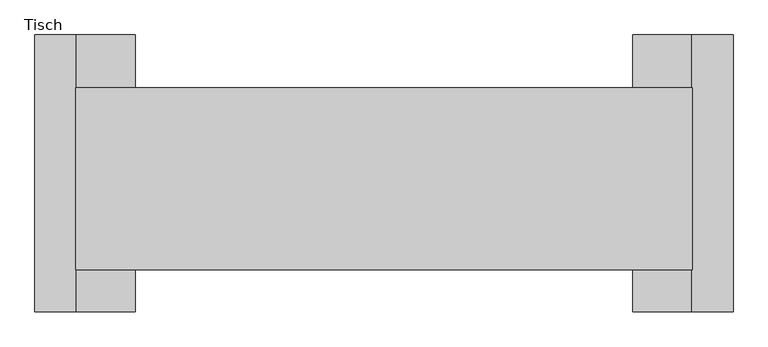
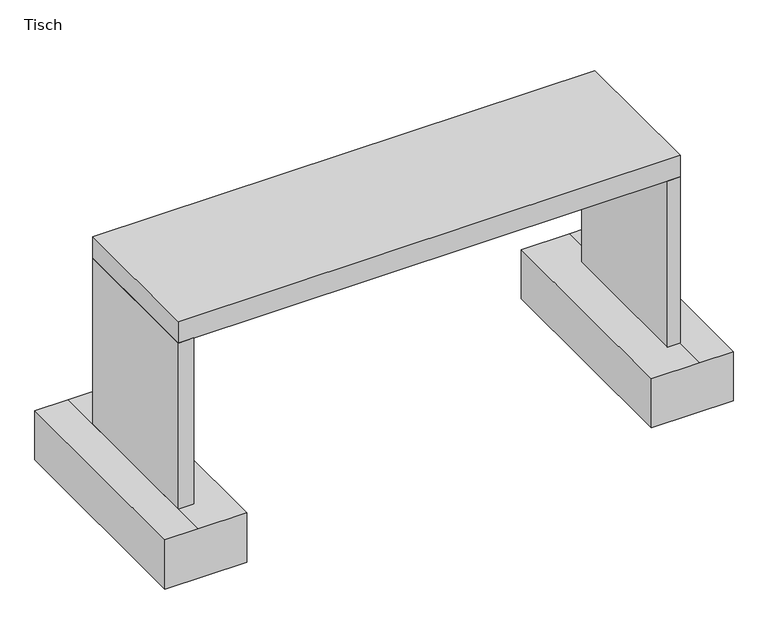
"""IFC4 building model written with IfcOpenShell, lengths in millimetres: furniture geometry, Fixierte Ausstattung Tisch : Tisch."""

from ifc_helpers import new_model, si_unit, frame, origin, origin_with_axes, place, context, project, spatial, polyline, outline, extrude, source, transform, mapped, element, save


def tisch_132eb69d(model_context):
    return source(origin(), model_context, "Body", "SweptSolid", [
        extrude(outline(polyline([(0.0, -688.2667023), (0.0, -851.0509322), (0.0, -964.2667023), (-176.0, -964.2667023), (-176.0, -688.2667023), (0.0, -688.2667023)])), frame((0.0, -315.2814062, 0.0), z_axis=(0.0, 1.0, 0.0), x_axis=(0.0, 0.0, 1.0)), (0.0, 0.0, 1.0), 760.825519),
        extrude(outline(polyline([(0.0, 679.3401535), (-176.0, 679.3401535), (-176.0, 955.3401535), (0.0, 955.3401535), (0.0, 842.1243834), (0.0, 679.3401535)])), frame((0.0, -315.2814062, 0.0), z_axis=(0.0, 1.0, 0.0), x_axis=(0.0, 0.0, 1.0)), (0.0, 0.0, 1.0), 760.825519),
        extrude(outline(polyline([(-852.5334046, -200.0), (-852.5334046, 300.0), (-800.0, 300.0), (-800.0, -200.0), (-852.5334046, -200.0)])), origin_with_axes(), (0.0, 0.0, 1.0), 593.868043),
        extrude(outline(polyline([(843.6068559, -200.0), (800.0, -200.0), (800.0, 300.0), (843.6068559, 300.0), (843.6068559, -200.0)])), origin_with_axes(), (0.0, 0.0, 1.0), 593.868043),
        extrude(outline(polyline([(843.6068559, 300.0), (843.6068559, -200.0), (-852.5334046, -200.0), (-852.5334046, 300.0), (843.6068559, 300.0)])), frame((0.0, 0.0, 593.868043), z_axis=(0.0, 0.0, 1.0), x_axis=(1.0, 0.0, 0.0)), (0.0, 0.0, 1.0), 76.131957),
    ])


if __name__ == "__main__":
    model = new_model("IFC4")
    model_context = context("Model", 3, world=origin())
    ifc_project = project(units=[si_unit("LENGTHUNIT", "METRE", prefix="MILLI")], contexts=[model_context])
    site = spatial("IfcSite", under=ifc_project)
    building = spatial("IfcBuilding", under=site)
    placement = place(None, origin())
    tisch_shape = tisch_132eb69d(model_context)
    element("IfcFurniture", 1, ObjectType="Fixierte Ausstattung Tisch : Tisch", at=placement, inside=building, context=model_context, shape_type="MappedRepresentation", body=[
        mapped(tisch_shape, transform((0.0, 0.0, 0.0), x_axis=(1.0, 0.0, 0.0), y_axis=(0.0, 1.0, 0.0), z_axis=(0.0, 0.0, 1.0))),
    ])
    save(model, "model.ifc")
